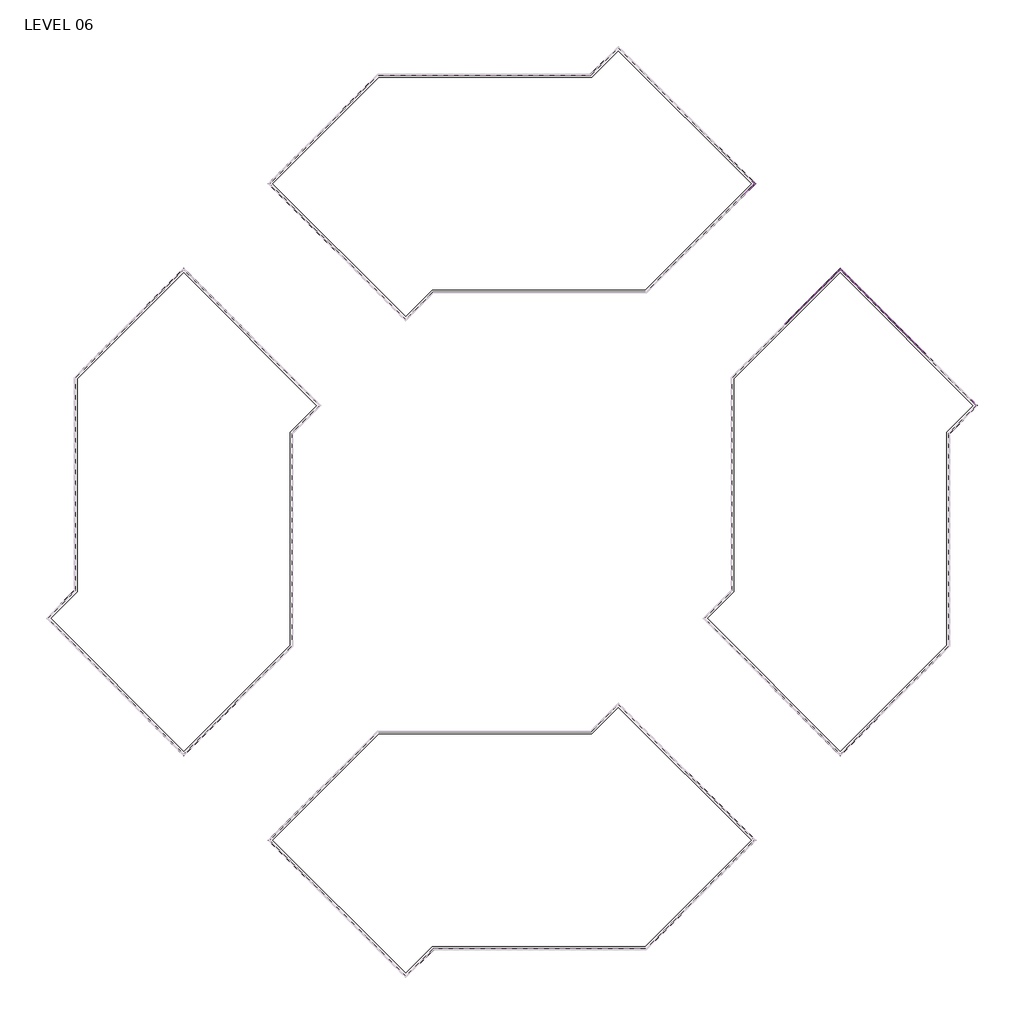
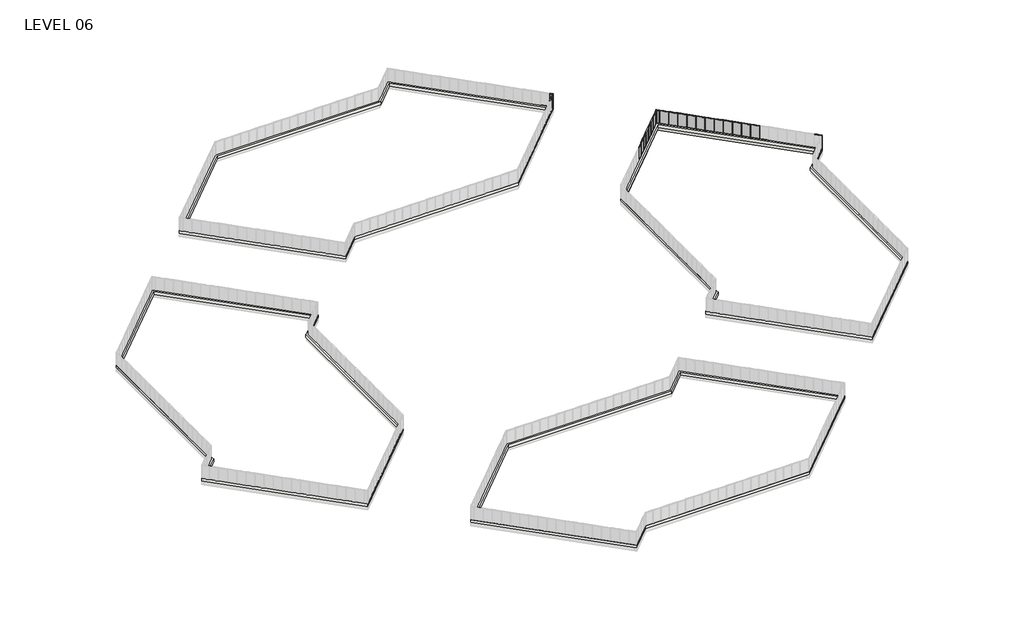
# One storey, part 17 of 17: 75 members, 22 plates, 4 slabs, 2 walls.
"""IFC4 building model written with IfcOpenShell, lengths in millimetres."""

from ifc_helpers import new_model, si_unit, frame, origin, place, context, project, spatial, polyline, outline, extrude, faceted_brep, transform, mapped, element, save
from components import member_5247f267, member_e44af9ab, member_800970d4, member_25b26a38, member_c23f844a, member_53409b32, member_ed9c17d6, member_0b71a88d, plate_6d527a83, plate_67294edd, plate_aaac5d3d, plate_50b9cd61, plate_048e4634, plate_e0fd5134, plate_62af1d3c, plate_dca6a18a

model = new_model("IFC4")

# Units and contexts
model_context = context("Model", 3, world=origin())
ifc_project = project(units=[si_unit("LENGTHUNIT", "METRE", prefix="MILLI")], contexts=[model_context])

# Site, building, storey
site = spatial("IfcSite", under=ifc_project)
building = spatial("IfcBuilding", under=site)
storey = spatial("IfcBuildingStorey", under=building, Name="LEVEL 06", Elevation=19596.1)

# Members
placement = place(None, origin())
member_shape = member_5247f267(model_context)
element("IfcMember", 1, ObjectType="Rectangular Mullion : 2\" x 4.5\" rectangular", at=placement, inside=storey, context=model_context, shape_type="MappedRepresentation", body=[
    mapped(member_shape, transform((64227.3404937, 104942.2679469, 19596.1), x_axis=(0.0, 0.0, -1.0), y_axis=(0.7071067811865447, 0.7071067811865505, 0.0), z_axis=(0.7071067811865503, -0.7071067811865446, 0.0))),
])
element("IfcMember", 2, ObjectType="Rectangular Mullion : 2\" x 4.5\" rectangular", at=placement, inside=storey, context=model_context, shape_type="MappedRepresentation", body=[
    mapped(member_shape, transform((64227.3404937, 104141.486663, 22186.9), x_axis=(0.0, 0.0, 1.0), y_axis=(0.7071067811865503, -0.7071067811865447, 0.0), z_axis=(0.7071067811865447, 0.7071067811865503, 0.0))),
])
member_2_shape = member_e44af9ab(model_context)
element("IfcMember", 3, ObjectType="Rectangular Mullion : 2\" x 4.5\" rectangular", at=placement, inside=storey, context=model_context, shape_type="MappedRepresentation", body=[
    mapped(member_2_shape, transform((64245.3010059, 104159.4471752, 19596.1), x_axis=(0.7071067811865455, 0.7071067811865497, 0.0), y_axis=(0.7071067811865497, -0.7071067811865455, 0.0), z_axis=(0.0, 0.0, -1.0))),
])
element("IfcMember", 4, ObjectType="Rectangular Mullion : 2\" x 4.5\" rectangular", at=placement, inside=storey, context=model_context, shape_type="MappedRepresentation", body=[
    mapped(member_2_shape, transform((64245.3010059, 104924.3074346, 19596.1), x_axis=(-0.7071067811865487, 0.7071067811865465, 0.0), y_axis=(0.7071067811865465, 0.7071067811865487, 0.0), z_axis=(0.0, 0.0, -1.0))),
])
member_3_shape = member_800970d4(model_context)
element("IfcMember", 5, ObjectType="Rectangular Mullion : 2\" x 4.5\" rectangular", at=placement, inside=storey, context=model_context, shape_type="MappedRepresentation", body=[
    mapped(member_3_shape, transform((64627.7311356, 104541.8773049, 19596.1), x_axis=(0.7071067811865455, 0.7071067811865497, 0.0), y_axis=(0.7071067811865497, -0.7071067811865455, 0.0), z_axis=(0.0, 0.0, -1.0))),
])
element("IfcMember", 6, ObjectType="Rectangular Mullion : 2\" x 4.5\" rectangular", at=placement, inside=storey, context=model_context, shape_type="MappedRepresentation", body=[
    mapped(member_3_shape, transform((64627.7311356, 104541.8773049, 22186.9), x_axis=(0.7071067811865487, -0.7071067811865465, 0.0), y_axis=(0.7071067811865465, 0.7071067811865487, 0.0), z_axis=(0.0, 0.0, 1.0))),
])
member_4_shape = member_25b26a38(model_context)
element("IfcMember", 7, ObjectType="Rectangular Mullion : 2\" x 4.5\" rectangular", at=placement, inside=storey, context=model_context, shape_type="MappedRepresentation", body=[
    mapped(member_4_shape, transform((64263.2615182, 104177.4076875, 19596.1), x_axis=(0.0, 0.0, -1.0), y_axis=(0.7071067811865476, -0.7071067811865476, 0.0), z_axis=(-0.7071067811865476, -0.7071067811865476, 0.0))),
])
element("IfcMember", 8, ObjectType="Rectangular Mullion : 2\" x 4.5\" rectangular", at=placement, inside=storey, context=model_context, shape_type="MappedRepresentation", body=[
    mapped(member_4_shape, transform((64591.8101111, 104577.7983294, 19596.1), x_axis=(0.0, 0.0, -1.0), y_axis=(0.7071067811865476, 0.7071067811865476, 0.0), z_axis=(0.7071067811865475, -0.7071067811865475, 0.0))),
])
element("IfcMember", 9, ObjectType="Rectangular Mullion : 2\" x 4.5\" rectangular", at=placement, inside=storey, context=model_context, shape_type="MappedRepresentation", body=[
    mapped(member_4_shape, transform((64591.8101111, 104505.9562804, 22186.9), x_axis=(0.0, 0.0, 1.0), y_axis=(0.7071067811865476, -0.7071067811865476, 0.0), z_axis=(0.7071067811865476, 0.7071067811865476, 0.0))),
])
element("IfcMember", 10, ObjectType="Rectangular Mullion : 2\" x 4.5\" rectangular", at=placement, inside=storey, context=model_context, shape_type="MappedRepresentation", body=[
    mapped(member_4_shape, transform((64263.2615182, 104906.3469224, 22186.9), x_axis=(0.0, 0.0, 1.0), y_axis=(0.7071067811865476, 0.7071067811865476, 0.0), z_axis=(-0.7071067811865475, 0.7071067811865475, 0.0))),
])
element("IfcMember", 11, ObjectType="Rectangular Mullion : 2\" x 4.5\" rectangular", at=placement, inside=storey, context=model_context, shape_type="MappedRepresentation", body=[
    mapped(member_shape, transform((69983.7142707, 85453.6032785, 22186.9), x_axis=(0.0, 0.0, 1.0), y_axis=(0.7071067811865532, -0.7071067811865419, 0.0), z_axis=(0.7071067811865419, 0.7071067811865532, 0.0))),
])
element("IfcMember", 12, ObjectType="Rectangular Mullion : 2\" x 4.5\" rectangular", at=placement, inside=storey, context=model_context, shape_type="MappedRepresentation", body=[
    mapped(member_shape, transform((71061.3302035, 86531.2192113, 22186.9), x_axis=(0.0, 0.0, 1.0), y_axis=(0.7071067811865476, -0.7071067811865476, 0.0), z_axis=(0.7071067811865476, 0.7071067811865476, 0.0))),
])
element("IfcMember", 13, ObjectType="Rectangular Mullion : 2\" x 4.5\" rectangular", at=placement, inside=storey, context=model_context, shape_type="MappedRepresentation", body=[
    mapped(member_shape, transform((73216.5768709, 88686.4658786, 22186.9), x_axis=(0.0, 0.0, 1.0), y_axis=(0.7071067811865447, -0.7071067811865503, 0.0), z_axis=(0.7071067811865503, 0.7071067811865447, 0.0))),
])
element("IfcMember", 14, ObjectType="Rectangular Mullion : 2\" x 4.5\" rectangular", at=placement, inside=storey, context=model_context, shape_type="MappedRepresentation", body=[
    mapped(member_shape, transform((72138.9535372, 87608.842545, 22186.9), x_axis=(0.0, 0.0, 1.0), y_axis=(0.7071067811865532, -0.7071067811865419, 0.0), z_axis=(0.7071067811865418, 0.7071067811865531, 0.0))),
])
element("IfcMember", 15, ObjectType="Rectangular Mullion : 2\" x 4.5\" rectangular", at=placement, inside=storey, context=model_context, shape_type="MappedRepresentation", body=[
    mapped(member_shape, transform((74294.2076054, 89764.0966131, 22186.9), x_axis=(0.0, 0.0, 1.0), y_axis=(0.7071067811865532, -0.7071067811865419, 0.0), z_axis=(0.7071067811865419, 0.7071067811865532, 0.0))),
])
element("IfcMember", 16, ObjectType="Rectangular Mullion : 2\" x 4.5\" rectangular", at=placement, inside=storey, context=model_context, shape_type="MappedRepresentation", body=[
    mapped(member_shape, transform((75371.8383399, 90841.7273477, 22186.9), x_axis=(0.0, 0.0, 1.0), y_axis=(0.7071067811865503, -0.7071067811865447, 0.0), z_axis=(0.7071067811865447, 0.7071067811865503, 0.0))),
])
element("IfcMember", 17, ObjectType="Rectangular Mullion : 2\" x 4.5\" rectangular", at=placement, inside=storey, context=model_context, shape_type="MappedRepresentation", body=[
    mapped(member_shape, transform((76449.4690745, 91919.3580822, 22186.9), x_axis=(0.0, 0.0, 1.0), y_axis=(0.7071067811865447, -0.7071067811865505, 0.0), z_axis=(0.7071067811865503, 0.7071067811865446, 0.0))),
])
element("IfcMember", 18, ObjectType="Rectangular Mullion : 2\" x 4.5\" rectangular", at=placement, inside=storey, context=model_context, shape_type="MappedRepresentation", body=[
    mapped(member_shape, transform((79369.5908029, 89800.0176376, 22186.9), x_axis=(0.0, 0.0, 1.0), y_axis=(-0.7071067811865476, -0.7071067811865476, 0.0), z_axis=(0.7071067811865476, -0.7071067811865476, 0.0))),
])
element("IfcMember", 19, ObjectType="Rectangular Mullion : 2\" x 4.5\" rectangular", at=placement, inside=storey, context=model_context, shape_type="MappedRepresentation", body=[
    mapped(member_shape, transform((80447.2215374, 88722.3869031, 22186.9), x_axis=(0.0, 0.0, 1.0), y_axis=(-0.7071067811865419, -0.7071067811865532, 0.0), z_axis=(0.7071067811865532, -0.7071067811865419, 0.0))),
])
element("IfcMember", 20, ObjectType="Rectangular Mullion : 2\" x 4.5\" rectangular", at=placement, inside=storey, context=model_context, shape_type="MappedRepresentation", body=[
    mapped(member_shape, transform((82602.447272, 86567.1611686, 22186.9), x_axis=(0.0, 0.0, 1.0), y_axis=(-0.7071067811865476, -0.7071067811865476, 0.0), z_axis=(0.7071067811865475, -0.7071067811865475, 0.0))),
])
element("IfcMember", 21, ObjectType="Rectangular Mullion : 2\" x 4.5\" rectangular", at=placement, inside=storey, context=model_context, shape_type="MappedRepresentation", body=[
    mapped(member_shape, transform((83680.042272, 85489.5661686, 22186.9), x_axis=(0.0, 0.0, 1.0), y_axis=(-0.7071067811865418, -0.7071067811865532, 0.0), z_axis=(0.7071067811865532, -0.7071067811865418, 0.0))),
])
element("IfcMember", 22, ObjectType="Rectangular Mullion : 2\" x 4.5\" rectangular", at=placement, inside=storey, context=model_context, shape_type="MappedRepresentation", body=[
    mapped(member_shape, transform((84757.637272, 84411.9711686, 22186.9), x_axis=(0.0, 0.0, 1.0), y_axis=(-0.7071067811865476, -0.7071067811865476, 0.0), z_axis=(0.7071067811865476, -0.7071067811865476, 0.0))),
])
element("IfcMember", 23, ObjectType="Rectangular Mullion : 2\" x 4.5\" rectangular", at=placement, inside=storey, context=model_context, shape_type="MappedRepresentation", body=[
    mapped(member_shape, transform((85835.232272, 83334.3761686, 22186.9), x_axis=(0.0, 0.0, 1.0), y_axis=(-0.7071067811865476, -0.7071067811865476, 0.0), z_axis=(0.7071067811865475, -0.7071067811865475, 0.0))),
])
element("IfcMember", 24, ObjectType="Rectangular Mullion : 2\" x 4.5\" rectangular", at=placement, inside=storey, context=model_context, shape_type="MappedRepresentation", body=[
    mapped(member_shape, transform((78291.9600684, 90877.6483722, 22186.9), x_axis=(0.0, 0.0, 1.0), y_axis=(-0.7071067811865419, -0.7071067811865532, 0.0), z_axis=(0.7071067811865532, -0.7071067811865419, 0.0))),
])
element("IfcMember", 25, ObjectType="Rectangular Mullion : 2\" x 4.5\" rectangular", at=placement, inside=storey, context=model_context, shape_type="MappedRepresentation", body=[
    mapped(member_shape, transform((81524.8344047, 87644.7740358, 22186.9), x_axis=(0.0, 0.0, 1.0), y_axis=(-0.7071067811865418, -0.7071067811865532, 0.0), z_axis=(0.7071067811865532, -0.7071067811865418, 0.0))),
])
element("IfcMember", 26, ObjectType="Rectangular Mullion : 2\" x 4.5\" rectangular", at=placement, inside=storey, context=model_context, shape_type="MappedRepresentation", body=[
    mapped(member_shape, transform((70019.6352952, 85489.524303, 19596.1), x_axis=(0.0, 0.0, -1.0), y_axis=(0.7071067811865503, -0.7071067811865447, 0.0), z_axis=(-0.7071067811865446, -0.7071067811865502, 0.0))),
])
element("IfcMember", 27, ObjectType="Rectangular Mullion : 2\" x 4.5\" rectangular", at=placement, inside=storey, context=model_context, shape_type="MappedRepresentation", body=[
    mapped(member_shape, transform((71097.251228, 86567.1402358, 19596.1), x_axis=(0.0, 0.0, -1.0), y_axis=(0.7071067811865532, -0.7071067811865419, 0.0), z_axis=(-0.7071067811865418, -0.7071067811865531, 0.0))),
])
element("IfcMember", 28, ObjectType="Rectangular Mullion : 2\" x 4.5\" rectangular", at=placement, inside=storey, context=model_context, shape_type="MappedRepresentation", body=[
    mapped(member_shape, transform((73252.4978954, 88722.3869031, 19596.1), x_axis=(0.0, 0.0, -1.0), y_axis=(0.7071067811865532, -0.7071067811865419, 0.0), z_axis=(-0.7071067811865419, -0.7071067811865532, 0.0))),
])
element("IfcMember", 29, ObjectType="Rectangular Mullion : 2\" x 4.5\" rectangular", at=placement, inside=storey, context=model_context, shape_type="MappedRepresentation", body=[
    mapped(member_shape, transform((72174.8745617, 87644.7635694, 19596.1), x_axis=(0.0, 0.0, -1.0), y_axis=(0.7071067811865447, -0.7071067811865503, 0.0), z_axis=(-0.7071067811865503, -0.7071067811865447, 0.0))),
])
element("IfcMember", 30, ObjectType="Rectangular Mullion : 2\" x 4.5\" rectangular", at=placement, inside=storey, context=model_context, shape_type="MappedRepresentation", body=[
    mapped(member_shape, transform((74330.1286299, 89800.0176376, 19596.1), x_axis=(0.0, 0.0, -1.0), y_axis=(0.7071067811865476, -0.7071067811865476, 0.0), z_axis=(-0.7071067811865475, -0.7071067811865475, 0.0))),
])
element("IfcMember", 31, ObjectType="Rectangular Mullion : 2\" x 4.5\" rectangular", at=placement, inside=storey, context=model_context, shape_type="MappedRepresentation", body=[
    mapped(member_shape, transform((75407.7593644, 90877.6483722, 19596.1), x_axis=(0.0, 0.0, -1.0), y_axis=(0.7071067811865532, -0.7071067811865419, 0.0), z_axis=(-0.7071067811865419, -0.7071067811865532, 0.0))),
])
element("IfcMember", 32, ObjectType="Rectangular Mullion : 2\" x 4.5\" rectangular", at=placement, inside=storey, context=model_context, shape_type="MappedRepresentation", body=[
    mapped(member_shape, transform((79405.5118274, 89764.0966131, 19596.1), x_axis=(0.0, 0.0, -1.0), y_axis=(-0.7071067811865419, -0.7071067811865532, 0.0), z_axis=(-0.7071067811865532, 0.7071067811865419, 0.0))),
])
element("IfcMember", 33, ObjectType="Rectangular Mullion : 2\" x 4.5\" rectangular", at=placement, inside=storey, context=model_context, shape_type="MappedRepresentation", body=[
    mapped(member_shape, transform((80483.1425619, 88686.4658786, 19596.1), x_axis=(0.0, 0.0, -1.0), y_axis=(-0.7071067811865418, -0.7071067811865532, 0.0), z_axis=(-0.7071067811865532, 0.7071067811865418, 0.0))),
])
element("IfcMember", 34, ObjectType="Rectangular Mullion : 2\" x 4.5\" rectangular", at=placement, inside=storey, context=model_context, shape_type="MappedRepresentation", body=[
    mapped(member_shape, transform((82638.3682965, 86531.2401441, 19596.1), x_axis=(0.0, 0.0, -1.0), y_axis=(-0.7071067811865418, -0.7071067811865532, 0.0), z_axis=(-0.7071067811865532, 0.7071067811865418, 0.0))),
])
element("IfcMember", 35, ObjectType="Rectangular Mullion : 2\" x 4.5\" rectangular", at=placement, inside=storey, context=model_context, shape_type="MappedRepresentation", body=[
    mapped(member_shape, transform((83715.9632965, 85453.6451441, 19596.1), x_axis=(0.0, 0.0, -1.0), y_axis=(-0.7071067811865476, -0.7071067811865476, 0.0), z_axis=(-0.7071067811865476, 0.7071067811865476, 0.0))),
])
element("IfcMember", 36, ObjectType="Rectangular Mullion : 2\" x 4.5\" rectangular", at=placement, inside=storey, context=model_context, shape_type="MappedRepresentation", body=[
    mapped(member_shape, transform((84793.5582965, 84376.0501441, 19596.1), x_axis=(0.0, 0.0, -1.0), y_axis=(-0.7071067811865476, -0.7071067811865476, 0.0), z_axis=(-0.7071067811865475, 0.7071067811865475, 0.0))),
])
element("IfcMember", 37, ObjectType="Rectangular Mullion : 2\" x 4.5\" rectangular", at=placement, inside=storey, context=model_context, shape_type="MappedRepresentation", body=[
    mapped(member_shape, transform((78327.8810929, 90841.7273477, 19596.1), x_axis=(0.0, 0.0, -1.0), y_axis=(-0.7071067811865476, -0.7071067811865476, 0.0), z_axis=(-0.7071067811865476, 0.7071067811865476, 0.0))),
])
element("IfcMember", 38, ObjectType="Rectangular Mullion : 2\" x 4.5\" rectangular", at=placement, inside=storey, context=model_context, shape_type="MappedRepresentation", body=[
    mapped(member_shape, transform((77250.2503583, 91919.3580822, 19596.1), x_axis=(0.0, 0.0, -1.0), y_axis=(-0.7071067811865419, -0.7071067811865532, 0.0), z_axis=(-0.7071067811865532, 0.7071067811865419, 0.0))),
])
element("IfcMember", 39, ObjectType="Rectangular Mullion : 2\" x 4.5\" rectangular", at=placement, inside=storey, context=model_context, shape_type="MappedRepresentation", body=[
    mapped(member_shape, transform((81560.7554292, 87608.8530114, 19596.1), x_axis=(0.0, 0.0, -1.0), y_axis=(-0.7071067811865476, -0.7071067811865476, 0.0), z_axis=(-0.7071067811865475, 0.7071067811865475, 0.0))),
])
element("IfcMember", 40, ObjectType="Rectangular Mullion : 2\" x 4.5\" rectangular", at=placement, inside=storey, context=model_context, shape_type="MappedRepresentation", body=[
    mapped(member_2_shape, transform((70001.674783, 85471.5637907, 19596.1), x_axis=(0.7071067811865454, 0.7071067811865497, 0.0), y_axis=(0.7071067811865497, -0.7071067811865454, 0.0), z_axis=(0.0, 0.0, -1.0))),
])
element("IfcMember", 41, ObjectType="Rectangular Mullion : 2\" x 4.5\" rectangular", at=placement, inside=storey, context=model_context, shape_type="MappedRepresentation", body=[
    mapped(member_2_shape, transform((71079.2907158, 86549.1797235, 19596.1), x_axis=(0.7071067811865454, 0.7071067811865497, 0.0), y_axis=(0.7071067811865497, -0.7071067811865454, 0.0), z_axis=(0.0, 0.0, -1.0))),
])
element("IfcMember", 42, ObjectType="Rectangular Mullion : 2\" x 4.5\" rectangular", at=placement, inside=storey, context=model_context, shape_type="MappedRepresentation", body=[
    mapped(member_2_shape, transform((73234.5373831, 88704.4263909, 19596.1), x_axis=(0.7071067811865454, 0.7071067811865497, 0.0), y_axis=(0.7071067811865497, -0.7071067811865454, 0.0), z_axis=(0.0, 0.0, -1.0))),
])
element("IfcMember", 43, ObjectType="Rectangular Mullion : 2\" x 4.5\" rectangular", at=placement, inside=storey, context=model_context, shape_type="MappedRepresentation", body=[
    mapped(member_2_shape, transform((72156.9140495, 87626.8030572, 19596.1), x_axis=(0.7071067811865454, 0.7071067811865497, 0.0), y_axis=(0.7071067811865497, -0.7071067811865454, 0.0), z_axis=(0.0, 0.0, -1.0))),
])
element("IfcMember", 44, ObjectType="Rectangular Mullion : 2\" x 4.5\" rectangular", at=placement, inside=storey, context=model_context, shape_type="MappedRepresentation", body=[
    mapped(member_2_shape, transform((74312.1681176, 89782.0571254, 19596.1), x_axis=(0.7071067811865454, 0.7071067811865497, 0.0), y_axis=(0.7071067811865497, -0.7071067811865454, 0.0), z_axis=(0.0, 0.0, -1.0))),
])
element("IfcMember", 45, ObjectType="Rectangular Mullion : 2\" x 4.5\" rectangular", at=placement, inside=storey, context=model_context, shape_type="MappedRepresentation", body=[
    mapped(member_2_shape, transform((75389.7988522, 90859.6878599, 19596.1), x_axis=(0.7071067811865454, 0.7071067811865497, 0.0), y_axis=(0.7071067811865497, -0.7071067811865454, 0.0), z_axis=(0.0, 0.0, -1.0))),
])
element("IfcMember", 46, ObjectType="Rectangular Mullion : 2\" x 4.5\" rectangular", at=placement, inside=storey, context=model_context, shape_type="MappedRepresentation", body=[
    mapped(member_2_shape, transform((76467.4295867, 91937.3185944, 19596.1), x_axis=(0.7071067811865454, 0.7071067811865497, 0.0), y_axis=(0.7071067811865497, -0.7071067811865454, 0.0), z_axis=(0.0, 0.0, -1.0))),
])
element("IfcMember", 47, ObjectType="Rectangular Mullion : 2\" x 4.5\" rectangular", at=placement, inside=storey, context=model_context, shape_type="MappedRepresentation", body=[
    mapped(member_2_shape, transform((79387.5513152, 89782.0571254, 19596.1), x_axis=(0.7071067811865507, -0.7071067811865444, 0.0), y_axis=(-0.7071067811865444, -0.7071067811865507, 0.0), z_axis=(0.0, 0.0, -1.0))),
])
element("IfcMember", 48, ObjectType="Rectangular Mullion : 2\" x 4.5\" rectangular", at=placement, inside=storey, context=model_context, shape_type="MappedRepresentation", body=[
    mapped(member_2_shape, transform((80465.1820497, 88704.4263909, 19596.1), x_axis=(0.7071067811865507, -0.7071067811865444, 0.0), y_axis=(-0.7071067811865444, -0.7071067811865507, 0.0), z_axis=(0.0, 0.0, -1.0))),
])
element("IfcMember", 49, ObjectType="Rectangular Mullion : 2\" x 4.5\" rectangular", at=placement, inside=storey, context=model_context, shape_type="MappedRepresentation", body=[
    mapped(member_2_shape, transform((82620.4077842, 86549.2006563, 19596.1), x_axis=(0.7071067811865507, -0.7071067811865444, 0.0), y_axis=(-0.7071067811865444, -0.7071067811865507, 0.0), z_axis=(0.0, 0.0, -1.0))),
])
element("IfcMember", 50, ObjectType="Rectangular Mullion : 2\" x 4.5\" rectangular", at=placement, inside=storey, context=model_context, shape_type="MappedRepresentation", body=[
    mapped(member_2_shape, transform((83698.0027842, 85471.6056563, 19596.1), x_axis=(0.7071067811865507, -0.7071067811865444, 0.0), y_axis=(-0.7071067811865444, -0.7071067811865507, 0.0), z_axis=(0.0, 0.0, -1.0))),
])
element("IfcMember", 51, ObjectType="Rectangular Mullion : 2\" x 4.5\" rectangular", at=placement, inside=storey, context=model_context, shape_type="MappedRepresentation", body=[
    mapped(member_2_shape, transform((84775.5977842, 84394.0106563, 19596.1), x_axis=(0.7071067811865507, -0.7071067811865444, 0.0), y_axis=(-0.7071067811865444, -0.7071067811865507, 0.0), z_axis=(0.0, 0.0, -1.0))),
])
element("IfcMember", 52, ObjectType="Rectangular Mullion : 2\" x 4.5\" rectangular", at=placement, inside=storey, context=model_context, shape_type="MappedRepresentation", body=[
    mapped(member_2_shape, transform((85853.1927842, 83316.4156563, 19596.1), x_axis=(0.7071067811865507, -0.7071067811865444, 0.0), y_axis=(-0.7071067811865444, -0.7071067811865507, 0.0), z_axis=(0.0, 0.0, -1.0))),
])
element("IfcMember", 53, ObjectType="Rectangular Mullion : 2\" x 4.5\" rectangular", at=placement, inside=storey, context=model_context, shape_type="MappedRepresentation", body=[
    mapped(member_2_shape, transform((88002.431194, 81167.1772465, 19596.1), x_axis=(0.7071067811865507, -0.7071067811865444, 0.0), y_axis=(-0.7071067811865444, -0.7071067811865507, 0.0), z_axis=(0.0, 0.0, -1.0))),
])
element("IfcMember", 54, ObjectType="Rectangular Mullion : 2\" x 4.5\" rectangular", at=placement, inside=storey, context=model_context, shape_type="MappedRepresentation", body=[
    mapped(member_2_shape, transform((89074.0746038, 80095.5338367, 19596.1), x_axis=(0.7071067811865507, -0.7071067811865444, 0.0), y_axis=(-0.7071067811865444, -0.7071067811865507, 0.0), z_axis=(0.0, 0.0, -1.0))),
])
element("IfcMember", 55, ObjectType="Rectangular Mullion : 2\" x 4.5\" rectangular", at=placement, inside=storey, context=model_context, shape_type="MappedRepresentation", body=[
    mapped(member_2_shape, transform((78309.9205806, 90859.6878599, 19596.1), x_axis=(0.7071067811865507, -0.7071067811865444, 0.0), y_axis=(-0.7071067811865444, -0.7071067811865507, 0.0), z_axis=(0.0, 0.0, -1.0))),
])
element("IfcMember", 56, ObjectType="Rectangular Mullion : 2\" x 4.5\" rectangular", at=placement, inside=storey, context=model_context, shape_type="MappedRepresentation", body=[
    mapped(member_2_shape, transform((77232.2898461, 91937.3185944, 19596.1), x_axis=(0.7071067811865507, -0.7071067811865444, 0.0), y_axis=(-0.7071067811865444, -0.7071067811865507, 0.0), z_axis=(0.0, 0.0, -1.0))),
])
element("IfcMember", 57, ObjectType="Rectangular Mullion : 2\" x 4.5\" rectangular", at=placement, inside=storey, context=model_context, shape_type="MappedRepresentation", body=[
    mapped(member_2_shape, transform((81542.794917, 87626.8135236, 19596.1), x_axis=(0.7071067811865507, -0.7071067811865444, 0.0), y_axis=(-0.7071067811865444, -0.7071067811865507, 0.0), z_axis=(0.0, 0.0, -1.0))),
])
element("IfcMember", 58, ObjectType="Rectangular Mullion : 2\" x 4.5\" rectangular", at=placement, inside=storey, context=model_context, shape_type="MappedRepresentation", body=[
    mapped(member_2_shape, transform((86927.8119891, 82241.7964514, 19596.1), x_axis=(0.7071067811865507, -0.7071067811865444, 0.0), y_axis=(-0.7071067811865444, -0.7071067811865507, 0.0), z_axis=(0.0, 0.0, -1.0))),
])
element("IfcMember", 59, ObjectType="Rectangular Mullion : 2\" x 4.5\" rectangular", at=placement, inside=storey, context=model_context, shape_type="MappedRepresentation", body=[
    mapped(member_3_shape, transform((76849.8597164, 92319.7487241, 19596.1), x_axis=(0.7071067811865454, 0.7071067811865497, 0.0), y_axis=(0.7071067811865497, -0.7071067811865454, 0.0), z_axis=(0.0, 0.0, -1.0))),
])
element("IfcMember", 60, ObjectType="Rectangular Mullion : 2\" x 4.5\" rectangular", at=placement, inside=storey, context=model_context, shape_type="MappedRepresentation", body=[
    mapped(member_3_shape, transform((96411.640852, 72757.9675885, 19596.1), x_axis=(0.7071067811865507, -0.7071067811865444, 0.0), y_axis=(-0.7071067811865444, -0.7071067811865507, 0.0), z_axis=(0.0, 0.0, -1.0))),
])
element("IfcMember", 61, ObjectType="Rectangular Mullion : 2\" x 4.5\" rectangular", at=placement, inside=storey, context=model_context, shape_type="MappedRepresentation", body=[
    mapped(member_3_shape, transform((76849.8597164, 92319.7487241, 22186.9), x_axis=(-0.7071067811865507, 0.7071067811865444, 0.0), y_axis=(-0.7071067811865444, -0.7071067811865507, 0.0), z_axis=(0.0, 0.0, 1.0))),
])
element("IfcMember", 62, ObjectType="Rectangular Mullion : 2\" x 4.5\" rectangular", at=placement, inside=storey, context=model_context, shape_type="MappedRepresentation", body=[
    mapped(member_3_shape, transform((96411.640852, 72757.9675885, 22186.9), x_axis=(0.7071067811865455, 0.7071067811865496, 0.0), y_axis=(-0.7071067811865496, 0.7071067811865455, 0.0), z_axis=(0.0, 0.0, 1.0))),
])
member_5_shape = member_c23f844a(model_context)
element("IfcMember", 63, ObjectType="Rectangular Mullion : 2\" x 4.5\" rectangular", at=placement, inside=storey, context=model_context, shape_type="MappedRepresentation", body=[
    mapped(member_5_shape, transform((89056.1140916, 80113.494349, 22186.9), x_axis=(0.0, 0.0, 1.0), y_axis=(-0.7071067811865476, -0.7071067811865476, 0.0), z_axis=(0.7071067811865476, -0.7071067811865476, 0.0))),
])
element("IfcMember", 64, ObjectType="Rectangular Mullion : 2\" x 4.5\" rectangular", at=placement, inside=storey, context=model_context, shape_type="MappedRepresentation", body=[
    mapped(member_5_shape, transform((88020.3917063, 81149.2167343, 19596.1), x_axis=(0.0, 0.0, -1.0), y_axis=(-0.7071067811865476, -0.7071067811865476, 0.0), z_axis=(-0.7071067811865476, 0.7071067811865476, 0.0))),
])
element("IfcMember", 65, ObjectType="Rectangular Mullion : 2\" x 4.5\" rectangular", at=placement, inside=storey, context=model_context, shape_type="MappedRepresentation", body=[
    mapped(member_5_shape, transform((89092.035116, 80077.5733245, 19596.1), x_axis=(0.0, 0.0, -1.0), y_axis=(-0.7071067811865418, -0.7071067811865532, 0.0), z_axis=(-0.7071067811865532, 0.7071067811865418, 0.0))),
])
element("IfcMember", 66, ObjectType="Rectangular Mullion : 2\" x 4.5\" rectangular", at=placement, inside=storey, context=model_context, shape_type="MappedRepresentation", body=[
    mapped(member_4_shape, transform((76813.9386919, 92283.8276997, 22186.9), x_axis=(0.0, 0.0, 1.0), y_axis=(0.7071067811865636, -0.7071067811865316, 0.0), z_axis=(0.7071067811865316, 0.7071067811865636, 0.0))),
])
element("IfcMember", 67, ObjectType="Rectangular Mullion : 2\" x 4.5\" rectangular", at=placement, inside=storey, context=model_context, shape_type="MappedRepresentation", body=[
    mapped(member_4_shape, transform((77214.3293339, 91955.2791067, 22186.9), x_axis=(0.0, 0.0, 1.0), y_axis=(-0.7071067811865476, -0.7071067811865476, 0.0), z_axis=(0.7071067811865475, -0.7071067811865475, 0.0))),
])
element("IfcMember", 68, ObjectType="Rectangular Mullion : 2\" x 4.5\" rectangular", at=placement, inside=storey, context=model_context, shape_type="MappedRepresentation", body=[
    mapped(member_4_shape, transform((76485.3900989, 91955.2791067, 19596.1), x_axis=(0.0, 0.0, -1.0), y_axis=(0.7071067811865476, -0.7071067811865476, 0.0), z_axis=(-0.7071067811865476, -0.7071067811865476, 0.0))),
])
element("IfcMember", 69, ObjectType="Rectangular Mullion : 2\" x 4.5\" rectangular", at=placement, inside=storey, context=model_context, shape_type="MappedRepresentation", body=[
    mapped(member_4_shape, transform((76885.7807409, 92283.8276997, 19596.1), x_axis=(0.0, 0.0, -1.0), y_axis=(-0.7071067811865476, -0.7071067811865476, 0.0), z_axis=(-0.7071067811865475, 0.7071067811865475, 0.0))),
])
member_6_shape = member_53409b32(model_context)
element("IfcMember", 70, ObjectType="Rectangular Mullion : 2\" x 4.5\" rectangular", at=placement, inside=storey, context=model_context, shape_type="MappedRepresentation", body=[
    mapped(member_6_shape, transform((96375.7198275, 72793.888613, 22186.9), x_axis=(0.0, 0.0, 1.0), y_axis=(-0.7071067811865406, -0.7071067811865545, 0.0), z_axis=(0.7071067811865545, -0.7071067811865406, 0.0))),
])
member_7_shape = member_ed9c17d6(model_context)
element("IfcMember", 71, ObjectType="Rectangular Mullion : 2\" x 4.5\" rectangular", at=placement, inside=storey, context=model_context, shape_type="MappedRepresentation", body=[
    mapped(member_7_shape, transform((87984.4706818, 81185.1377588, 22186.9), x_axis=(0.0, 0.0, 1.0), y_axis=(-0.7071067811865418, -0.7071067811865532, 0.0), z_axis=(0.7071067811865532, -0.7071067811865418, 0.0))),
])
element("IfcMember", 72, ObjectType="Rectangular Mullion : 2\" x 4.5\" rectangular", at=placement, inside=storey, context=model_context, shape_type="MappedRepresentation", body=[
    mapped(member_7_shape, transform((86909.8514769, 82259.7569637, 22186.9), x_axis=(0.0, 0.0, 1.0), y_axis=(-0.7071067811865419, -0.7071067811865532, 0.0), z_axis=(0.7071067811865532, -0.7071067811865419, 0.0))),
])
element("IfcMember", 73, ObjectType="Rectangular Mullion : 2\" x 4.5\" rectangular", at=placement, inside=storey, context=model_context, shape_type="MappedRepresentation", body=[
    mapped(member_7_shape, transform((85871.1532965, 83298.4551441, 19596.1), x_axis=(0.0, 0.0, -1.0), y_axis=(-0.7071067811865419, -0.7071067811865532, 0.0), z_axis=(-0.7071067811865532, 0.7071067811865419, 0.0))),
])
element("IfcMember", 74, ObjectType="Rectangular Mullion : 2\" x 4.5\" rectangular", at=placement, inside=storey, context=model_context, shape_type="MappedRepresentation", body=[
    mapped(member_7_shape, transform((86945.7725014, 82223.8359392, 19596.1), x_axis=(0.0, 0.0, -1.0), y_axis=(-0.7071067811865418, -0.7071067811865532, 0.0), z_axis=(-0.7071067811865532, 0.7071067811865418, 0.0))),
])
member_8_shape = member_0b71a88d(model_context)
element("IfcMember", 75, ObjectType="Rectangular Mullion : 2\" x 4.5\" rectangular", at=placement, inside=storey, context=model_context, shape_type="MappedRepresentation", body=[
    mapped(member_8_shape, transform((96375.7198275, 72722.046564, 19596.1), x_axis=(0.0, 0.0, -1.0), y_axis=(-0.7071067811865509, 0.7071067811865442, 0.0), z_axis=(0.7071067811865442, 0.7071067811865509, 0.0))),
])

# Plates
plate_shape = plate_6d527a83(model_context)
element("IfcPlate", 76, ObjectType="System Panel : 1/4\" Glass", at=placement, inside=storey, context=model_context, shape_type="MappedRepresentation", body=[
    mapped(plate_shape, transform((64427.5358147, 104341.681984, 19646.9), x_axis=(0.7071067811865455, 0.7071067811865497, 0.0), y_axis=(-0.7071067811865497, 0.7071067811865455, 0.0), z_axis=(0.0, 0.0, 1.0))),
])
element("IfcPlate", 77, ObjectType="System Panel : 1/4\" Glass", at=placement, inside=storey, context=model_context, shape_type="MappedRepresentation", body=[
    mapped(plate_shape, transform((64427.5358147, 104742.0726259, 19646.9), x_axis=(-0.7071067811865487, 0.7071067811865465, 0.0), y_axis=(-0.7071067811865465, -0.7071067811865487, 0.0), z_axis=(0.0, 0.0, 1.0))),
])
plate_2_shape = plate_67294edd(model_context)
element("IfcPlate", 78, ObjectType="System Panel : 1/4\" Glass", at=placement, inside=storey, context=model_context, shape_type="MappedRepresentation", body=[
    mapped(plate_2_shape, transform((73773.3527504, 89243.2417581, 19646.9), x_axis=(0.7071067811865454, 0.7071067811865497, 0.0), y_axis=(-0.7071067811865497, 0.7071067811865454, 0.0), z_axis=(0.0, 0.0, 1.0))),
])
element("IfcPlate", 79, ObjectType="System Panel : 1/4\" Glass", at=placement, inside=storey, context=model_context, shape_type="MappedRepresentation", body=[
    mapped(plate_2_shape, transform((74850.9834849, 90320.8724927, 19646.9), x_axis=(0.7071067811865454, 0.7071067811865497, 0.0), y_axis=(-0.7071067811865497, 0.7071067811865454, 0.0), z_axis=(0.0, 0.0, 1.0))),
])
element("IfcPlate", 80, ObjectType="System Panel : 1/4\" Glass", at=placement, inside=storey, context=model_context, shape_type="MappedRepresentation", body=[
    mapped(plate_2_shape, transform((75928.6142194, 91398.5032272, 19646.9), x_axis=(0.7071067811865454, 0.7071067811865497, 0.0), y_axis=(-0.7071067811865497, 0.7071067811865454, 0.0), z_axis=(0.0, 0.0, 1.0))),
])
element("IfcPlate", 81, ObjectType="System Panel : 1/4\" Glass", at=placement, inside=storey, context=model_context, shape_type="MappedRepresentation", body=[
    mapped(plate_2_shape, transform((79926.3666824, 89243.2417581, 19646.9), x_axis=(0.7071067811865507, -0.7071067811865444, 0.0), y_axis=(0.7071067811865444, 0.7071067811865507, 0.0), z_axis=(0.0, 0.0, 1.0))),
])
element("IfcPlate", 82, ObjectType="System Panel : 1/4\" Glass", at=placement, inside=storey, context=model_context, shape_type="MappedRepresentation", body=[
    mapped(plate_2_shape, transform((78848.7359479, 90320.8724927, 19646.9), x_axis=(0.7071067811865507, -0.7071067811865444, 0.0), y_axis=(0.7071067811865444, 0.7071067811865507, 0.0), z_axis=(0.0, 0.0, 1.0))),
])
element("IfcPlate", 83, ObjectType="System Panel : 1/4\" Glass", at=placement, inside=storey, context=model_context, shape_type="MappedRepresentation", body=[
    mapped(plate_2_shape, transform((77771.1052134, 91398.5032272, 19646.9), x_axis=(0.7071067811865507, -0.7071067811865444, 0.0), y_axis=(0.7071067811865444, 0.7071067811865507, 0.0), z_axis=(0.0, 0.0, 1.0))),
])
plate_3_shape = plate_aaac5d3d(model_context)
element("IfcPlate", 84, ObjectType="System Panel : 1/4\" Glass", at=placement, inside=storey, context=model_context, shape_type="MappedRepresentation", body=[
    mapped(plate_3_shape, transform((69462.8668166, 84932.7558243, 19646.9), x_axis=(0.7071067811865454, 0.7071067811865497, 0.0), y_axis=(-0.7071067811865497, 0.7071067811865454, 0.0), z_axis=(0.0, 0.0, 1.0))),
])
element("IfcPlate", 85, ObjectType="System Panel : 1/4\" Glass", at=placement, inside=storey, context=model_context, shape_type="MappedRepresentation", body=[
    mapped(plate_3_shape, transform((70540.4827494, 86010.3717571, 19646.9), x_axis=(0.7071067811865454, 0.7071067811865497, 0.0), y_axis=(-0.7071067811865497, 0.7071067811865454, 0.0), z_axis=(0.0, 0.0, 1.0))),
])
plate_4_shape = plate_50b9cd61(model_context)
element("IfcPlate", 86, ObjectType="System Panel : 1/4\" Glass", at=placement, inside=storey, context=model_context, shape_type="MappedRepresentation", body=[
    mapped(plate_4_shape, transform((88538.2528989, 80631.3555416, 19646.9), x_axis=(0.7071067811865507, -0.7071067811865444, 0.0), y_axis=(0.7071067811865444, 0.7071067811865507, 0.0), z_axis=(0.0, 0.0, 1.0))),
])
plate_5_shape = plate_048e4634(model_context)
element("IfcPlate", 87, ObjectType="System Panel : 1/4\" Glass", at=placement, inside=storey, context=model_context, shape_type="MappedRepresentation", body=[
    mapped(plate_5_shape, transform((83159.2052842, 86010.4031563, 19646.9), x_axis=(0.7071067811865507, -0.7071067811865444, 0.0), y_axis=(0.7071067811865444, 0.7071067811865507, 0.0), z_axis=(0.0, 0.0, 1.0))),
])
element("IfcPlate", 88, ObjectType="System Panel : 1/4\" Glass", at=placement, inside=storey, context=model_context, shape_type="MappedRepresentation", body=[
    mapped(plate_5_shape, transform((84236.8002842, 84932.8081563, 19646.9), x_axis=(0.7071067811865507, -0.7071067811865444, 0.0), y_axis=(0.7071067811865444, 0.7071067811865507, 0.0), z_axis=(0.0, 0.0, 1.0))),
])
element("IfcPlate", 89, ObjectType="System Panel : 1/4\" Glass", at=placement, inside=storey, context=model_context, shape_type="MappedRepresentation", body=[
    mapped(plate_5_shape, transform((85314.3952842, 83855.2131563, 19646.9), x_axis=(0.7071067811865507, -0.7071067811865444, 0.0), y_axis=(0.7071067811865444, 0.7071067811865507, 0.0), z_axis=(0.0, 0.0, 1.0))),
])
plate_6_shape = plate_e0fd5134(model_context)
element("IfcPlate", 90, ObjectType="System Panel : 1/4\" Glass", at=placement, inside=storey, context=model_context, shape_type="MappedRepresentation", body=[
    mapped(plate_6_shape, transform((71618.1023826, 87087.9913904, 19646.9), x_axis=(0.7071067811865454, 0.7071067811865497, 0.0), y_axis=(-0.7071067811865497, 0.7071067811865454, 0.0), z_axis=(0.0, 0.0, 1.0))),
])
element("IfcPlate", 91, ObjectType="System Panel : 1/4\" Glass", at=placement, inside=storey, context=model_context, shape_type="MappedRepresentation", body=[
    mapped(plate_6_shape, transform((72695.7257163, 88165.614724, 19646.9), x_axis=(0.7071067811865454, 0.7071067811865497, 0.0), y_axis=(-0.7071067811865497, 0.7071067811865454, 0.0), z_axis=(0.0, 0.0, 1.0))),
])
element("IfcPlate", 92, ObjectType="System Panel : 1/4\" Glass", at=placement, inside=storey, context=model_context, shape_type="MappedRepresentation", body=[
    mapped(plate_shape, transform((76649.6643954, 92119.5534032, 19646.9), x_axis=(0.7071067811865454, 0.7071067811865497, 0.0), y_axis=(-0.7071067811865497, 0.7071067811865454, 0.0), z_axis=(0.0, 0.0, 1.0))),
])
element("IfcPlate", 93, ObjectType="System Panel : 1/4\" Glass", at=placement, inside=storey, context=model_context, shape_type="MappedRepresentation", body=[
    mapped(plate_shape, transform((77050.0550374, 92119.5534032, 19646.9), x_axis=(0.7071067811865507, -0.7071067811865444, 0.0), y_axis=(0.7071067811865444, 0.7071067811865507, 0.0), z_axis=(0.0, 0.0, 1.0))),
])
plate_7_shape = plate_62af1d3c(model_context)
element("IfcPlate", 94, ObjectType="System Panel : 1/4\" Glass", at=placement, inside=storey, context=model_context, shape_type="MappedRepresentation", body=[
    mapped(plate_7_shape, transform((81003.9884833, 88165.6199572, 19646.9), x_axis=(0.7071067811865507, -0.7071067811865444, 0.0), y_axis=(0.7071067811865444, 0.7071067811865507, 0.0), z_axis=(0.0, 0.0, 1.0))),
])
element("IfcPlate", 95, ObjectType="System Panel : 1/4\" Glass", at=placement, inside=storey, context=model_context, shape_type="MappedRepresentation", body=[
    mapped(plate_7_shape, transform((82081.6013506, 87088.00709, 19646.9), x_axis=(0.7071067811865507, -0.7071067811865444, 0.0), y_axis=(0.7071067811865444, 0.7071067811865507, 0.0), z_axis=(0.0, 0.0, 1.0))),
])
plate_8_shape = plate_dca6a18a(model_context)
element("IfcPlate", 96, ObjectType="System Panel : 1/4\" Glass", at=placement, inside=storey, context=model_context, shape_type="MappedRepresentation", body=[
    mapped(plate_8_shape, transform((86390.5023867, 82779.1060539, 19646.9), x_axis=(0.7071067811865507, -0.7071067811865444, 0.0), y_axis=(0.7071067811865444, 0.7071067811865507, 0.0), z_axis=(0.0, 0.0, 1.0))),
])
element("IfcPlate", 97, ObjectType="System Panel : 1/4\" Glass", at=placement, inside=storey, context=model_context, shape_type="MappedRepresentation", body=[
    mapped(plate_8_shape, transform((87465.1215916, 81704.486849, 19646.9), x_axis=(0.7071067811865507, -0.7071067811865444, 0.0), y_axis=(0.7071067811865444, 0.7071067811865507, 0.0), z_axis=(0.0, 0.0, 1.0))),
])

# Slabs
element("IfcSlab", 98, ObjectType="1'10\" Concrete Slab", at=placement, inside=storey, context=model_context, shape_type="SweptSolid", body=[
    extrude(outline(polyline([(-5056.6534407, 10494.0578721), (10586.5715593, 26137.2828721), (41066.5715593, 26137.2828721), (45065.95, 30136.6613128), (64708.5534407, 10494.0578721), (49065.3284407, -5149.1671279), (18585.3284407, -5149.1671279), (14585.95, -9148.5455686), (-5056.6534407, 10494.0578721)]), holes=[polyline([(41255.95, 25680.0828721), (10775.95, 25680.0828721), (-4410.075, 10494.0578721), (14585.95, -8501.9671279), (18395.95, -4691.9671279), (48875.95, -4691.9671279), (64061.975, 10494.0578721), (45065.95, 29490.0828721), (41255.95, 25680.0828721)])]), frame((0.0, 0.0, 19037.3), z_axis=(0.0, 0.0, 1.0), x_axis=(1.0, 0.0, 0.0)), (0.0, 0.0, 1.0), 558.8),
])
element("IfcSlab", 99, ObjectType="1'10\" Concrete Slab", at=placement, inside=storey, context=model_context, shape_type="SweptSolid", body=[
    extrude(outline(polyline([(76849.8597164, 92400.5710292), (96492.4631571, 72757.9675885), (92493.0847164, 68758.5891478), (92493.0847164, 38278.5891478), (76849.8597164, 22635.3641478), (57207.2562757, 42277.9675885), (61206.6347164, 46277.3460292), (61206.6347164, 76757.3460292), (76849.8597164, 92400.5710292)]), holes=[polyline([(61663.8347164, 46087.9675885), (57853.8347164, 42277.9675885), (76849.8597164, 23281.9425885), (92035.8847164, 38467.9675885), (92035.8847164, 68947.9675885), (95845.8847164, 72757.9675885), (76849.8597164, 91753.9925885), (61663.8347164, 76567.9675885), (61663.8347164, 46087.9675885)])]), frame((0.0, 0.0, 19037.3), z_axis=(0.0, 0.0, 1.0), x_axis=(1.0, 0.0, 0.0)), (0.0, 0.0, 1.0), 558.8),
])
element("IfcSlab", 100, ObjectType="1'10\" Concrete Slab", at=placement, inside=storey, context=model_context, shape_type="SweptSolid", body=[
    extrude(outline(polyline([(64708.5534407, 104541.8773049), (49065.3284407, 88898.6523049), (18585.3284407, 88898.6523049), (14585.95, 84899.2738642), (-5056.6534407, 104541.8773049), (10586.5715593, 120185.1023049), (41066.5715593, 120185.1023049), (45065.95, 124184.4807456), (64708.5534407, 104541.8773049)]), holes=[polyline([(18395.95, 89355.8523049), (48875.95, 89355.8523049), (64061.975, 104541.8773049), (45065.95, 123537.9023049), (41255.95, 119727.9023049), (10775.95, 119727.9023049), (-4410.075, 104541.8773049), (14585.95, 85545.8523049), (18395.95, 89355.8523049)])]), frame((0.0, 0.0, 19037.3), z_axis=(0.0, 0.0, 1.0), x_axis=(1.0, 0.0, 0.0)), (0.0, 0.0, 1.0), 558.8),
])
element("IfcSlab", 101, ObjectType="1'10\" Concrete Slab", at=placement, inside=storey, context=model_context, shape_type="SweptSolid", body=[
    extrude(outline(polyline([(-17197.9597164, 22635.3641478), (-36840.5631571, 42277.9675885), (-32841.1847164, 46277.3460292), (-32841.1847164, 76757.3460292), (-17197.9597164, 92400.5710292), (2444.6437243, 72757.9675885), (-1554.7347164, 68758.5891478), (-1554.7347164, 38278.5891478), (-17197.9597164, 22635.3641478)]), holes=[polyline([(-2011.9347164, 68947.9675885), (1798.0652836, 72757.9675885), (-17197.9597164, 91753.9925885), (-32383.9847164, 76567.9675885), (-32383.9847164, 46087.9675885), (-36193.9847164, 42277.9675885), (-17197.9597164, 23281.9425885), (-2011.9347164, 38467.9675885), (-2011.9347164, 68947.9675885)])]), frame((0.0, 0.0, 19037.3), z_axis=(0.0, 0.0, 1.0), x_axis=(1.0, 0.0, 0.0)), (0.0, 0.0, 1.0), 558.8),
])

# Walls
element("IfcWall", 102, ObjectType="01-CONCRETE-12", at=placement, inside=storey, context=model_context, shape_type="Brep", body=[
    faceted_brep([(96276.9370102, 72973.4937354, 18415.0), (76849.8597164, 92400.5710292, 18415.0), (76849.8597164, 92400.5710292, 19037.3), (96276.9370102, 72973.4937354, 19037.3), (96061.4108633, 72757.9675885, 18415.0), (96061.4108633, 72757.9675885, 19037.3), (76849.8597164, 91969.5187354, 19037.3), (76634.3335695, 92185.0448823, 19037.3), (76634.3335695, 92185.0448823, 18415.0), (76849.8597164, 91969.5187354, 18415.0)], [[[0, 1, 2, 3]], [[4, 5, 6, 7, 8, 9]], [[1, 0, 4, 9, 8]], [[3, 2, 7, 6, 5]], [[0, 3, 5, 4]], [[2, 1, 8, 7]]]),
])
element("IfcWall", 103, ObjectType="01-CONCRETE-12", at=placement, inside=storey, context=model_context, shape_type="Brep", body=[
    faceted_brep([(76634.3335695, 92185.0448823, 18415.0), (61511.4347164, 77062.1460292, 18415.0), (61511.4347164, 77062.1460292, 19037.3), (76634.3335695, 92185.0448823, 19037.3), (76849.8597164, 91969.5187354, 18415.0), (76849.8597164, 91969.5187354, 19037.3), (72547.5477899, 87667.2068089, 19037.3), (72116.495496, 87236.1545151, 19037.3), (61801.3557409, 76921.0147599, 19037.3), (61511.4347164, 76631.0937354, 19037.3), (61511.4347164, 76631.0937354, 18415.0), (61801.3557409, 76921.0147599, 18415.0), (72116.495496, 87236.1545151, 18415.0), (72547.5477899, 87667.2068089, 18415.0)], [[[0, 1, 2, 3]], [[4, 5, 6, 7, 8, 9, 10, 11, 12, 13]], [[1, 0, 4, 13, 12, 11, 10]], [[3, 2, 9, 8, 7, 6, 5]], [[0, 3, 5, 4]], [[2, 1, 10, 9]]]),
])

save(model, "model.ifc")
